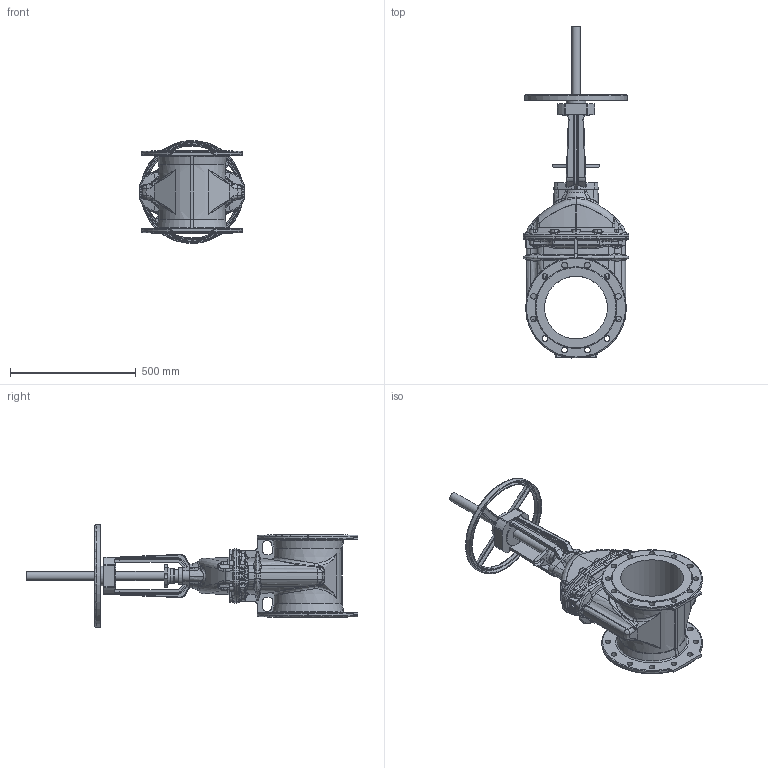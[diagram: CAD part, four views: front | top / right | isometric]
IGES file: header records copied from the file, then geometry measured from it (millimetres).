
Start section: SolidWorks IGES file using analytic representation for surfaces
Global section: file name: \\avksan2\techshare\PBM outline export from Enovia\O_21_34_DN250_40XXXXX open_AA0.igs; native system: SolidWorks 2012; preprocessor: SolidWorks 2012; author: pbm; date: 200212.102629; units: millimetre
Bounding box: 422 x 1321.61 x 409.98 mm (x, y, z)
Surface area: 1744015.9 mm2 (no closed solid volume)
Topology: 0 solids, 0 shells, 1094 faces, 5674 edges, 5582 vertices
Faces by surface type: bspline 620, revolution 474
